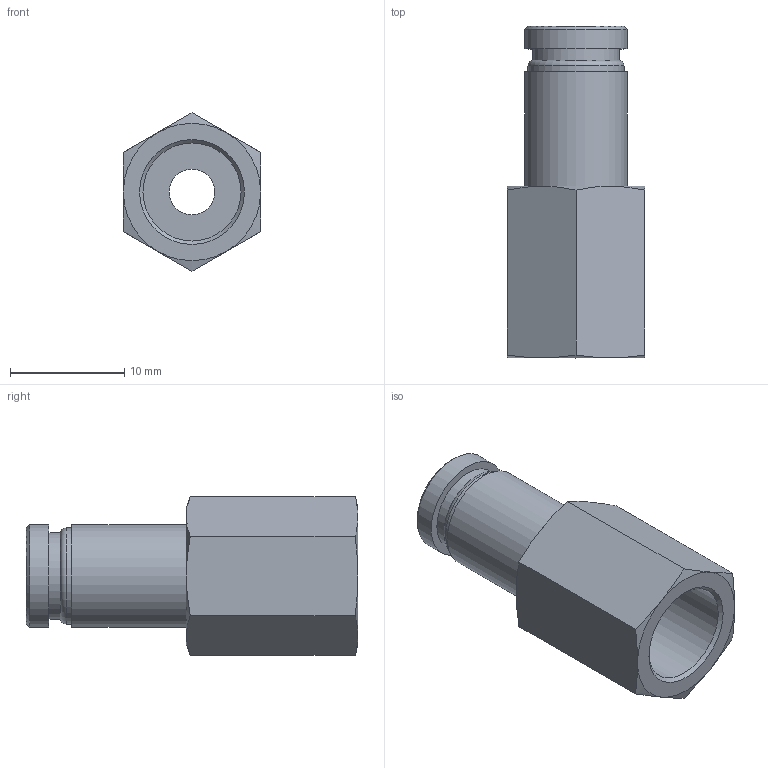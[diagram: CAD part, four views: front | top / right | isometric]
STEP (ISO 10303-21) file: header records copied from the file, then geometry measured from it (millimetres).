
FILE_DESCRIPTION(/* description */ (''),/* implementation_level */ '2;1');
FILE_NAME(/* name */ 'LXH14 0006 B1.stp',/* time_stamp */ '2026-04-27T19:24:33+02:00',/* author */ ('freju'),/* organization */ (''),/* preprocessor_version */ 'ST-DEVELOPER v20.1',/* originating_system */ 'Autodesk Inventor 2026',/* authorisation */ '');
FILE_SCHEMA (('AUTOMOTIVE_DESIGN { 1 0 10303 214 3 1 1 }'));
Length unit declared in the file: millimetre
Products named in the file (1): LXH14 0006 B1
Bounding box: 12 x 29 x 13.86 mm (x, y, z)
Volume: 1676.3 mm3; surface area: 1858.2 mm2
Topology: 1 solids, 1 shells, 35 faces, 70 edges, 42 vertices
Faces by surface type: cone 14, plane 13, cylinder 7, torus 1
Full cylindrical faces by diameter (mm): 4 x1, 6 x1, 7.6 x1, 8.4 x1, 8.566 x1, 9 x2
Entity records: 926 total; most frequent: CARTESIAN_POINT 196, DIRECTION 149, ORIENTED_EDGE 140, EDGE_CURVE 70, AXIS2_PLACEMENT_3D 67, EDGE_LOOP 42, VERTEX_POINT 42, FACE_OUTER_BOUND 35
